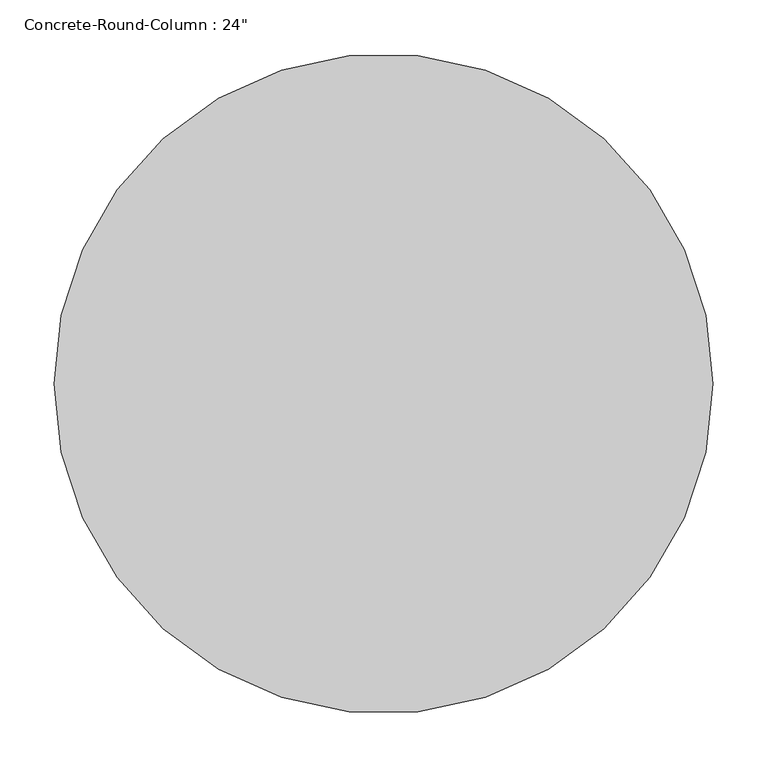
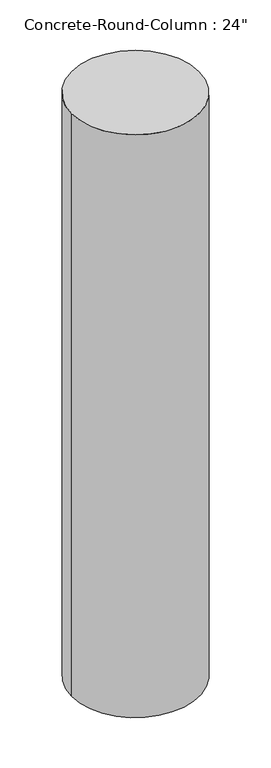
"""IFC4 building model written with IfcOpenShell, lengths in millimetres: column geometry."""

from ifc_helpers import new_model, si_unit, point, origin, origin_with_axes, origin_2d, place, context, project, spatial, circle_curve, trimmed, segment, composite_curve, outline, extrude, source, transform, mapped, element, save


def column_7915c079(model_context):
    return source(origin(), model_context, "Body", "SweptSolid", [
        extrude(outline(composite_curve([segment(trimmed(circle_curve(origin_2d(), 304.8), [point((-304.8, 0.0))], [point((304.8, 0.0))], False, "CARTESIAN"), True, "CONTINUOUS"), segment(trimmed(circle_curve(origin_2d(), 304.8), [point((304.8, 0.0))], [point((-304.8, 0.0))], False, "CARTESIAN"), True, "CONTINUOUS")], self_intersect=False)), origin_with_axes(), (0.0, 0.0, 1.0), 2943.225),
    ])


if __name__ == "__main__":
    model = new_model("IFC4")
    model_context = context("Model", 3, world=origin())
    ifc_project = project(units=[si_unit("LENGTHUNIT", "METRE", prefix="MILLI")], contexts=[model_context])
    site = spatial("IfcSite", under=ifc_project)
    building = spatial("IfcBuilding", under=site)
    placement = place(None, origin())
    column_shape = column_7915c079(model_context)
    element("IfcColumn", 1, ObjectType="Concrete-Round-Column : 24\"", at=placement, inside=building, context=model_context, shape_type="MappedRepresentation", body=[
        mapped(column_shape, transform((0.0, 0.0, 0.0), x_axis=(1.0, 0.0, 0.0), y_axis=(0.0, 1.0, 0.0), z_axis=(0.0, 0.0, 1.0))),
    ])
    save(model, "model.ifc")
